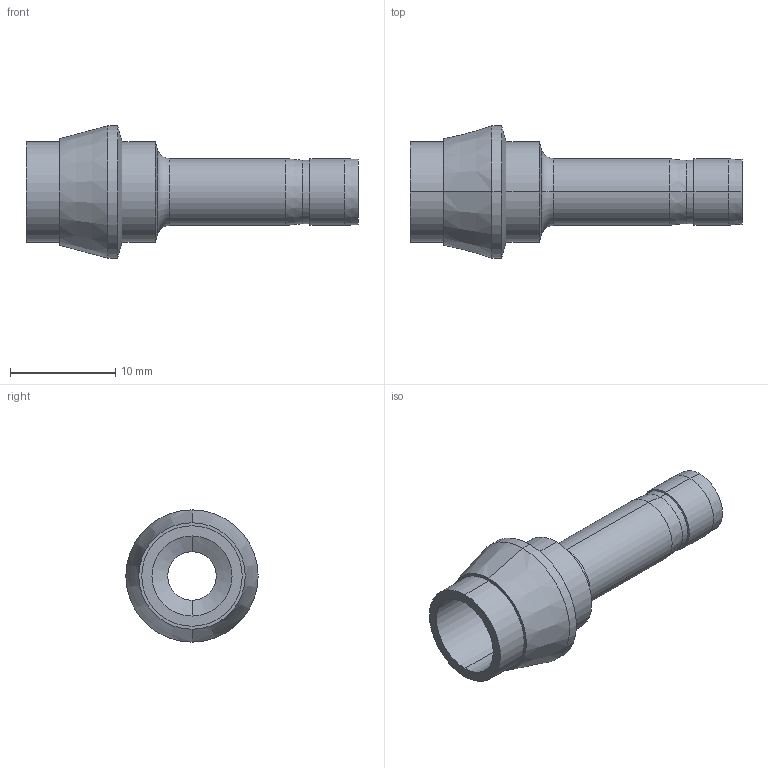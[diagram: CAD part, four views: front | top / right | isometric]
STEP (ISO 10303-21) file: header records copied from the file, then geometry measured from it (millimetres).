
FILE_DESCRIPTION (( 'STEP AP203' ), '1' );
FILE_NAME ('DPC06-04 SS.STEP', '2009-09-08T08:33:29', ( ' ' ), ( '' ), 'SwSTEP 2.0', 'SolidWorks 2008', '' );
FILE_SCHEMA (( 'CONFIG_CONTROL_DESIGN' ));
Length unit declared in the file: millimetre
Products named in the file (1): DPC06-04 SS
Bounding box: 31.5 x 12.55 x 12.55 mm (x, y, z)
Volume: 979.2 mm3; surface area: 1443.2 mm2
Topology: 1 solids, 1 shells, 35 faces, 70 edges, 38 vertices
Faces by surface type: cylinder 16, cone 14, plane 3, torus 2
Entity records: 977 total; most frequent: DIRECTION 182, CARTESIAN_POINT 144, ORIENTED_EDGE 140, AXIS2_PLACEMENT_3D 76, EDGE_CURVE 70, CIRCLE 40, EDGE_LOOP 38, VERTEX_POINT 38
